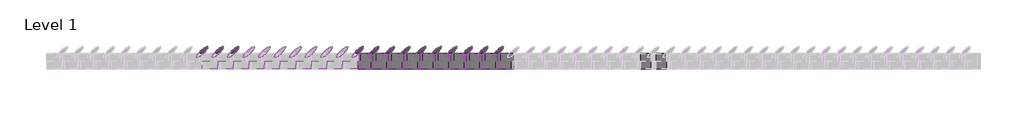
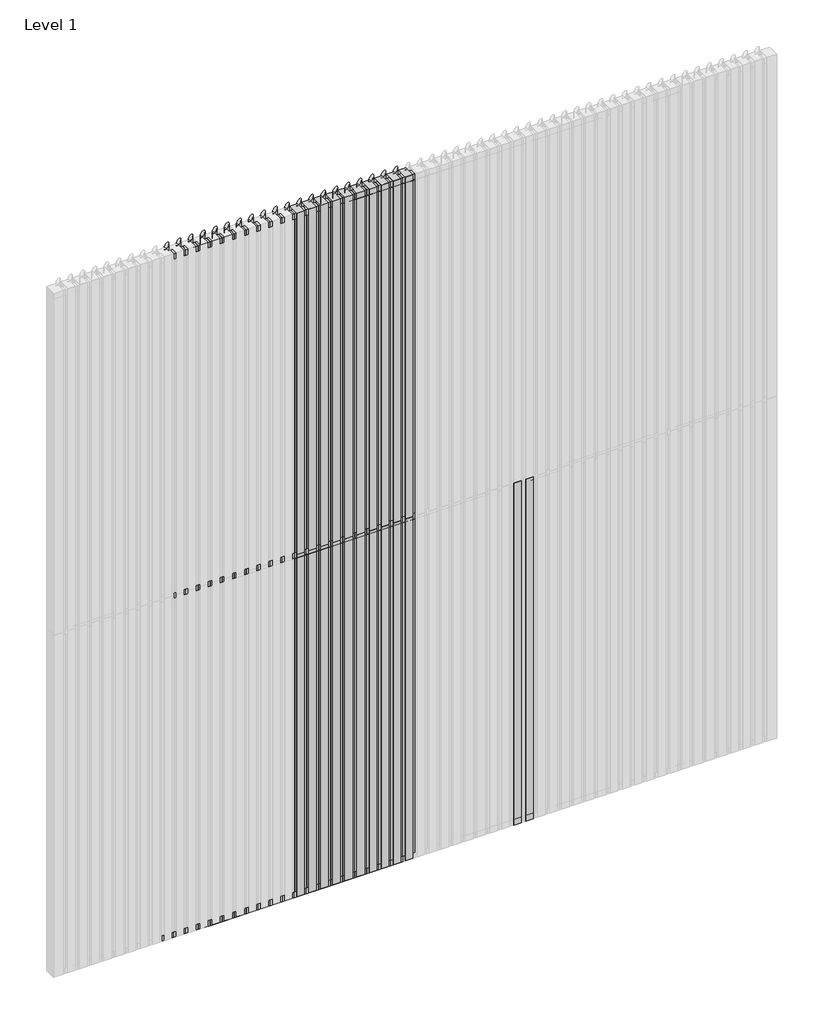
# One storey, part 2 of 4: 93 members, 42 plates.
"""IFC4 building model written with IfcOpenShell, lengths in millimetres."""

from ifc_helpers import new_model, si_unit, origin, place, context, project, spatial, transform, mapped, element, save
from components import rectangular_mullion_c274bac7, rectangular_mullion_cddbc660, rectangular_mullion_a3e25429, rectangular_mullion_ae434dd9, empty_system_panel_empty_80e3f5b0, empty_system_panel_empty_147de6ce

model = new_model("IFC4")

# Units and contexts
model_context = context("Model", 3, world=origin())
ifc_project = project(units=[si_unit("LENGTHUNIT", "METRE", prefix="MILLI")], contexts=[model_context])

# Site, building, storey
site = spatial("IfcSite", under=ifc_project)
building = spatial("IfcBuilding", under=site)
storey = spatial("IfcBuildingStorey", under=building, Name="Level 1", Elevation=0.0)

# Members
placement = place(None, origin())
rectangular_mullion_shape = rectangular_mullion_c274bac7(model_context)
element("IfcMember", 1, ObjectType="Rectangular Mullion : RSen_21_CWM_blade - 100 ellips - 45°_gen_duco projects", at=placement, inside=storey, context=model_context, shape_type="MappedRepresentation", body=[
    mapped(rectangular_mullion_shape, transform((2900.0, 3000.0, 0.0), x_axis=(-1.0, 0.0, 0.0), y_axis=(0.0, 1.0, 0.0), z_axis=(0.0, 0.0, -1.0))),
])
element("IfcMember", 2, ObjectType="Rectangular Mullion : RSen_21_CWM_blade - 100 ellips - 45°_gen_duco projects", at=placement, inside=storey, context=model_context, shape_type="MappedRepresentation", body=[
    mapped(rectangular_mullion_shape, transform((2800.0, 3000.0, 0.0), x_axis=(-1.0, 0.0, 0.0), y_axis=(0.0, 1.0, 0.0), z_axis=(0.0, 0.0, -1.0))),
])
element("IfcMember", 3, ObjectType="Rectangular Mullion : RSen_21_CWM_blade - 100 ellips - 45°_gen_duco projects", at=placement, inside=storey, context=model_context, shape_type="MappedRepresentation", body=[
    mapped(rectangular_mullion_shape, transform((2700.0, 3000.0, 0.0), x_axis=(-1.0, 0.0, 0.0), y_axis=(0.0, 1.0, 0.0), z_axis=(0.0, 0.0, -1.0))),
])
element("IfcMember", 4, ObjectType="Rectangular Mullion : RSen_21_CWM_blade - 100 ellips - 45°_gen_duco projects", at=placement, inside=storey, context=model_context, shape_type="MappedRepresentation", body=[
    mapped(rectangular_mullion_shape, transform((2600.0, 3000.0, 0.0), x_axis=(-1.0, 0.0, 0.0), y_axis=(0.0, 1.0, 0.0), z_axis=(0.0, 0.0, -1.0))),
])
element("IfcMember", 5, ObjectType="Rectangular Mullion : RSen_21_CWM_blade - 100 ellips - 45°_gen_duco projects", at=placement, inside=storey, context=model_context, shape_type="MappedRepresentation", body=[
    mapped(rectangular_mullion_shape, transform((2500.0, 3000.0, 0.0), x_axis=(-1.0, 0.0, 0.0), y_axis=(0.0, 1.0, 0.0), z_axis=(0.0, 0.0, -1.0))),
])
element("IfcMember", 6, ObjectType="Rectangular Mullion : RSen_21_CWM_blade - 100 ellips - 45°_gen_duco projects", at=placement, inside=storey, context=model_context, shape_type="MappedRepresentation", body=[
    mapped(rectangular_mullion_shape, transform((2400.0, 3000.0, 0.0), x_axis=(-1.0, 0.0, 0.0), y_axis=(0.0, 1.0, 0.0), z_axis=(0.0, 0.0, -1.0))),
])
element("IfcMember", 7, ObjectType="Rectangular Mullion : RSen_21_CWM_blade - 100 ellips - 45°_gen_duco projects", at=placement, inside=storey, context=model_context, shape_type="MappedRepresentation", body=[
    mapped(rectangular_mullion_shape, transform((2300.0, 3000.0, 0.0), x_axis=(-1.0, 0.0, 0.0), y_axis=(0.0, 1.0, 0.0), z_axis=(0.0, 0.0, -1.0))),
])
element("IfcMember", 8, ObjectType="Rectangular Mullion : RSen_21_CWM_blade - 100 ellips - 45°_gen_duco projects", at=placement, inside=storey, context=model_context, shape_type="MappedRepresentation", body=[
    mapped(rectangular_mullion_shape, transform((2200.0, 3000.0, 0.0), x_axis=(-1.0, 0.0, 0.0), y_axis=(0.0, 1.0, 0.0), z_axis=(0.0, 0.0, -1.0))),
])
element("IfcMember", 9, ObjectType="Rectangular Mullion : RSen_21_CWM_blade - 100 ellips - 45°_gen_duco projects", at=placement, inside=storey, context=model_context, shape_type="MappedRepresentation", body=[
    mapped(rectangular_mullion_shape, transform((2100.0, 3000.0, 0.0), x_axis=(-1.0, 0.0, 0.0), y_axis=(0.0, 1.0, 0.0), z_axis=(0.0, 0.0, -1.0))),
])
element("IfcMember", 10, ObjectType="Rectangular Mullion : RSen_21_CWM_blade - 100 ellips - 45°_gen_duco projects", at=placement, inside=storey, context=model_context, shape_type="MappedRepresentation", body=[
    mapped(rectangular_mullion_shape, transform((2000.0, 3000.0, 0.0), x_axis=(-1.0, 0.0, 0.0), y_axis=(0.0, 1.0, 0.0), z_axis=(0.0, 0.0, -1.0))),
])
element("IfcMember", 11, ObjectType="Rectangular Mullion : RSen_21_CWM_blade - 100 ellips - 45°_gen_duco projects", at=placement, inside=storey, context=model_context, shape_type="MappedRepresentation", body=[
    mapped(rectangular_mullion_shape, transform((1200.0, 3000.0, 0.0), x_axis=(-1.0, 0.0, 0.0), y_axis=(0.0, 1.0, 0.0), z_axis=(0.0, 0.0, -1.0))),
])
element("IfcMember", 12, ObjectType="Rectangular Mullion : RSen_21_CWM_blade - 100 ellips - 45°_gen_duco projects", at=placement, inside=storey, context=model_context, shape_type="MappedRepresentation", body=[
    mapped(rectangular_mullion_shape, transform((1100.0, 3000.0, 0.0), x_axis=(-1.0, 0.0, 0.0), y_axis=(0.0, 1.0, 0.0), z_axis=(0.0, 0.0, -1.0))),
])
element("IfcMember", 13, ObjectType="Rectangular Mullion : RSen_21_CWM_blade - 100 ellips - 45°_gen_duco projects", at=placement, inside=storey, context=model_context, shape_type="MappedRepresentation", body=[
    mapped(rectangular_mullion_shape, transform((1000.0, 3000.0, 0.0), x_axis=(-1.0, 0.0, 0.0), y_axis=(0.0, 1.0, 0.0), z_axis=(0.0, 0.0, -1.0))),
])
element("IfcMember", 14, ObjectType="Rectangular Mullion : RSen_21_CWM_blade - 100 ellips - 45°_gen_duco projects", at=placement, inside=storey, context=model_context, shape_type="MappedRepresentation", body=[
    mapped(rectangular_mullion_shape, transform((2900.0, 3000.0, 3000.0), x_axis=(-1.0, 0.0, 0.0), y_axis=(0.0, 1.0, 0.0), z_axis=(0.0, 0.0, -1.0))),
])
element("IfcMember", 15, ObjectType="Rectangular Mullion : RSen_21_CWM_blade - 100 ellips - 45°_gen_duco projects", at=placement, inside=storey, context=model_context, shape_type="MappedRepresentation", body=[
    mapped(rectangular_mullion_shape, transform((2800.0, 3000.0, 3000.0), x_axis=(-1.0, 0.0, 0.0), y_axis=(0.0, 1.0, 0.0), z_axis=(0.0, 0.0, -1.0))),
])
element("IfcMember", 16, ObjectType="Rectangular Mullion : RSen_21_CWM_blade - 100 ellips - 45°_gen_duco projects", at=placement, inside=storey, context=model_context, shape_type="MappedRepresentation", body=[
    mapped(rectangular_mullion_shape, transform((2700.0, 3000.0, 3000.0), x_axis=(-1.0, 0.0, 0.0), y_axis=(0.0, 1.0, 0.0), z_axis=(0.0, 0.0, -1.0))),
])
element("IfcMember", 17, ObjectType="Rectangular Mullion : RSen_21_CWM_blade - 100 ellips - 45°_gen_duco projects", at=placement, inside=storey, context=model_context, shape_type="MappedRepresentation", body=[
    mapped(rectangular_mullion_shape, transform((2600.0, 3000.0, 3000.0), x_axis=(-1.0, 0.0, 0.0), y_axis=(0.0, 1.0, 0.0), z_axis=(0.0, 0.0, -1.0))),
])
element("IfcMember", 18, ObjectType="Rectangular Mullion : RSen_21_CWM_blade - 100 ellips - 45°_gen_duco projects", at=placement, inside=storey, context=model_context, shape_type="MappedRepresentation", body=[
    mapped(rectangular_mullion_shape, transform((2500.0, 3000.0, 3000.0), x_axis=(-1.0, 0.0, 0.0), y_axis=(0.0, 1.0, 0.0), z_axis=(0.0, 0.0, -1.0))),
])
element("IfcMember", 19, ObjectType="Rectangular Mullion : RSen_21_CWM_blade - 100 ellips - 45°_gen_duco projects", at=placement, inside=storey, context=model_context, shape_type="MappedRepresentation", body=[
    mapped(rectangular_mullion_shape, transform((2400.0, 3000.0, 3000.0), x_axis=(-1.0, 0.0, 0.0), y_axis=(0.0, 1.0, 0.0), z_axis=(0.0, 0.0, -1.0))),
])
element("IfcMember", 20, ObjectType="Rectangular Mullion : RSen_21_CWM_blade - 100 ellips - 45°_gen_duco projects", at=placement, inside=storey, context=model_context, shape_type="MappedRepresentation", body=[
    mapped(rectangular_mullion_shape, transform((2300.0, 3000.0, 3000.0), x_axis=(-1.0, 0.0, 0.0), y_axis=(0.0, 1.0, 0.0), z_axis=(0.0, 0.0, -1.0))),
])
element("IfcMember", 21, ObjectType="Rectangular Mullion : RSen_21_CWM_blade - 100 ellips - 45°_gen_duco projects", at=placement, inside=storey, context=model_context, shape_type="MappedRepresentation", body=[
    mapped(rectangular_mullion_shape, transform((2200.0, 3000.0, 3000.0), x_axis=(-1.0, 0.0, 0.0), y_axis=(0.0, 1.0, 0.0), z_axis=(0.0, 0.0, -1.0))),
])
element("IfcMember", 22, ObjectType="Rectangular Mullion : RSen_21_CWM_blade - 100 ellips - 45°_gen_duco projects", at=placement, inside=storey, context=model_context, shape_type="MappedRepresentation", body=[
    mapped(rectangular_mullion_shape, transform((2100.0, 3000.0, 3000.0), x_axis=(-1.0, 0.0, 0.0), y_axis=(0.0, 1.0, 0.0), z_axis=(0.0, 0.0, -1.0))),
])
element("IfcMember", 23, ObjectType="Rectangular Mullion : RSen_21_CWM_blade - 100 ellips - 45°_gen_duco projects", at=placement, inside=storey, context=model_context, shape_type="MappedRepresentation", body=[
    mapped(rectangular_mullion_shape, transform((2000.0, 3000.0, 3000.0), x_axis=(-1.0, 0.0, 0.0), y_axis=(0.0, 1.0, 0.0), z_axis=(0.0, 0.0, -1.0))),
])
element("IfcMember", 24, ObjectType="Rectangular Mullion : RSen_21_CWM_blade - 100 ellips - 45°_gen_duco projects", at=placement, inside=storey, context=model_context, shape_type="MappedRepresentation", body=[
    mapped(rectangular_mullion_shape, transform((1900.0, 3000.0, 3000.0), x_axis=(-1.0, 0.0, 0.0), y_axis=(0.0, 1.0, 0.0), z_axis=(0.0, 0.0, -1.0))),
])
element("IfcMember", 25, ObjectType="Rectangular Mullion : RSen_21_CWM_blade - 100 ellips - 45°_gen_duco projects", at=placement, inside=storey, context=model_context, shape_type="MappedRepresentation", body=[
    mapped(rectangular_mullion_shape, transform((1800.0, 3000.0, 3000.0), x_axis=(-1.0, 0.0, 0.0), y_axis=(0.0, 1.0, 0.0), z_axis=(0.0, 0.0, -1.0))),
])
element("IfcMember", 26, ObjectType="Rectangular Mullion : RSen_21_CWM_blade - 100 ellips - 45°_gen_duco projects", at=placement, inside=storey, context=model_context, shape_type="MappedRepresentation", body=[
    mapped(rectangular_mullion_shape, transform((1700.0, 3000.0, 3000.0), x_axis=(-1.0, 0.0, 0.0), y_axis=(0.0, 1.0, 0.0), z_axis=(0.0, 0.0, -1.0))),
])
element("IfcMember", 27, ObjectType="Rectangular Mullion : RSen_21_CWM_blade - 100 ellips - 45°_gen_duco projects", at=placement, inside=storey, context=model_context, shape_type="MappedRepresentation", body=[
    mapped(rectangular_mullion_shape, transform((1600.0, 3000.0, 3000.0), x_axis=(-1.0, 0.0, 0.0), y_axis=(0.0, 1.0, 0.0), z_axis=(0.0, 0.0, -1.0))),
])
element("IfcMember", 28, ObjectType="Rectangular Mullion : RSen_21_CWM_blade - 100 ellips - 45°_gen_duco projects", at=placement, inside=storey, context=model_context, shape_type="MappedRepresentation", body=[
    mapped(rectangular_mullion_shape, transform((1500.0, 3000.0, 3000.0), x_axis=(-1.0, 0.0, 0.0), y_axis=(0.0, 1.0, 0.0), z_axis=(0.0, 0.0, -1.0))),
])
element("IfcMember", 29, ObjectType="Rectangular Mullion : RSen_21_CWM_blade - 100 ellips - 45°_gen_duco projects", at=placement, inside=storey, context=model_context, shape_type="MappedRepresentation", body=[
    mapped(rectangular_mullion_shape, transform((1400.0, 3000.0, 3000.0), x_axis=(-1.0, 0.0, 0.0), y_axis=(0.0, 1.0, 0.0), z_axis=(0.0, 0.0, -1.0))),
])
element("IfcMember", 30, ObjectType="Rectangular Mullion : RSen_21_CWM_blade - 100 ellips - 45°_gen_duco projects", at=placement, inside=storey, context=model_context, shape_type="MappedRepresentation", body=[
    mapped(rectangular_mullion_shape, transform((1300.0, 3000.0, 3000.0), x_axis=(-1.0, 0.0, 0.0), y_axis=(0.0, 1.0, 0.0), z_axis=(0.0, 0.0, -1.0))),
])
element("IfcMember", 31, ObjectType="Rectangular Mullion : RSen_21_CWM_blade - 100 ellips - 45°_gen_duco projects", at=placement, inside=storey, context=model_context, shape_type="MappedRepresentation", body=[
    mapped(rectangular_mullion_shape, transform((1200.0, 3000.0, 3000.0), x_axis=(-1.0, 0.0, 0.0), y_axis=(0.0, 1.0, 0.0), z_axis=(0.0, 0.0, -1.0))),
])
element("IfcMember", 32, ObjectType="Rectangular Mullion : RSen_21_CWM_blade - 100 ellips - 45°_gen_duco projects", at=placement, inside=storey, context=model_context, shape_type="MappedRepresentation", body=[
    mapped(rectangular_mullion_shape, transform((1100.0, 3000.0, 3000.0), x_axis=(-1.0, 0.0, 0.0), y_axis=(0.0, 1.0, 0.0), z_axis=(0.0, 0.0, -1.0))),
])
element("IfcMember", 33, ObjectType="Rectangular Mullion : RSen_21_CWM_blade - 100 ellips - 45°_gen_duco projects", at=placement, inside=storey, context=model_context, shape_type="MappedRepresentation", body=[
    mapped(rectangular_mullion_shape, transform((1000.0, 3000.0, 3000.0), x_axis=(-1.0, 0.0, 0.0), y_axis=(0.0, 1.0, 0.0), z_axis=(0.0, 0.0, -1.0))),
])
rectangular_mullion_2_shape = rectangular_mullion_cddbc660(model_context)
element("IfcMember", 34, ObjectType="Rectangular Mullion : RSen_21_CWM_support profile 50x50 - left_gen_duco projects", at=placement, inside=storey, context=model_context, shape_type="MappedRepresentation", body=[
    mapped(rectangular_mullion_2_shape, transform((2900.0, 3000.0, 6000.0), x_axis=(0.0, 0.0, 1.0), y_axis=(0.0, 1.0, 0.0), z_axis=(-1.0, 0.0, 0.0))),
])
element("IfcMember", 35, ObjectType="Rectangular Mullion : RSen_21_CWM_support profile 50x50 - left_gen_duco projects", at=placement, inside=storey, context=model_context, shape_type="MappedRepresentation", body=[
    mapped(rectangular_mullion_2_shape, transform((2800.0, 3000.0, 6000.0), x_axis=(0.0, 0.0, 1.0), y_axis=(0.0, 1.0, 0.0), z_axis=(-1.0, 0.0, 0.0))),
])
element("IfcMember", 36, ObjectType="Rectangular Mullion : RSen_21_CWM_support profile 50x50 - left_gen_duco projects", at=placement, inside=storey, context=model_context, shape_type="MappedRepresentation", body=[
    mapped(rectangular_mullion_2_shape, transform((2700.0, 3000.0, 6000.0), x_axis=(0.0, 0.0, 1.0), y_axis=(0.0, 1.0, 0.0), z_axis=(-1.0, 0.0, 0.0))),
])
element("IfcMember", 37, ObjectType="Rectangular Mullion : RSen_21_CWM_support profile 50x50 - left_gen_duco projects", at=placement, inside=storey, context=model_context, shape_type="MappedRepresentation", body=[
    mapped(rectangular_mullion_2_shape, transform((2600.0, 3000.0, 6000.0), x_axis=(0.0, 0.0, 1.0), y_axis=(0.0, 1.0, 0.0), z_axis=(-1.0, 0.0, 0.0))),
])
element("IfcMember", 38, ObjectType="Rectangular Mullion : RSen_21_CWM_support profile 50x50 - left_gen_duco projects", at=placement, inside=storey, context=model_context, shape_type="MappedRepresentation", body=[
    mapped(rectangular_mullion_2_shape, transform((2500.0, 3000.0, 6000.0), x_axis=(0.0, 0.0, 1.0), y_axis=(0.0, 1.0, 0.0), z_axis=(-1.0, 0.0, 0.0))),
])
element("IfcMember", 39, ObjectType="Rectangular Mullion : RSen_21_CWM_support profile 50x50 - left_gen_duco projects", at=placement, inside=storey, context=model_context, shape_type="MappedRepresentation", body=[
    mapped(rectangular_mullion_2_shape, transform((2400.0, 3000.0, 6000.0), x_axis=(0.0, 0.0, 1.0), y_axis=(0.0, 1.0, 0.0), z_axis=(-1.0, 0.0, 0.0))),
])
element("IfcMember", 40, ObjectType="Rectangular Mullion : RSen_21_CWM_support profile 50x50 - left_gen_duco projects", at=placement, inside=storey, context=model_context, shape_type="MappedRepresentation", body=[
    mapped(rectangular_mullion_2_shape, transform((2300.0, 3000.0, 6000.0), x_axis=(0.0, 0.0, 1.0), y_axis=(0.0, 1.0, 0.0), z_axis=(-1.0, 0.0, 0.0))),
])
element("IfcMember", 41, ObjectType="Rectangular Mullion : RSen_21_CWM_support profile 50x50 - left_gen_duco projects", at=placement, inside=storey, context=model_context, shape_type="MappedRepresentation", body=[
    mapped(rectangular_mullion_2_shape, transform((2200.0, 3000.0, 6000.0), x_axis=(0.0, 0.0, 1.0), y_axis=(0.0, 1.0, 0.0), z_axis=(-1.0, 0.0, 0.0))),
])
element("IfcMember", 42, ObjectType="Rectangular Mullion : RSen_21_CWM_support profile 50x50 - left_gen_duco projects", at=placement, inside=storey, context=model_context, shape_type="MappedRepresentation", body=[
    mapped(rectangular_mullion_2_shape, transform((2100.0, 3000.0, 6000.0), x_axis=(0.0, 0.0, 1.0), y_axis=(0.0, 1.0, 0.0), z_axis=(-1.0, 0.0, 0.0))),
])
element("IfcMember", 43, ObjectType="Rectangular Mullion : RSen_21_CWM_support profile 50x50 - left_gen_duco projects", at=placement, inside=storey, context=model_context, shape_type="MappedRepresentation", body=[
    mapped(rectangular_mullion_2_shape, transform((2000.0, 3000.0, 6000.0), x_axis=(0.0, 0.0, 1.0), y_axis=(0.0, 1.0, 0.0), z_axis=(-1.0, 0.0, 0.0))),
])
element("IfcMember", 44, ObjectType="Rectangular Mullion : RSen_21_CWM_support profile 50x50 - left_gen_duco projects", at=placement, inside=storey, context=model_context, shape_type="MappedRepresentation", body=[
    mapped(rectangular_mullion_2_shape, transform((1900.0, 3000.0, 6000.0), x_axis=(0.0, 0.0, 1.0), y_axis=(0.0, 1.0, 0.0), z_axis=(-1.0, 0.0, 0.0))),
])
element("IfcMember", 45, ObjectType="Rectangular Mullion : RSen_21_CWM_support profile 50x50 - left_gen_duco projects", at=placement, inside=storey, context=model_context, shape_type="MappedRepresentation", body=[
    mapped(rectangular_mullion_2_shape, transform((1800.0, 3000.0, 6000.0), x_axis=(0.0, 0.0, 1.0), y_axis=(0.0, 1.0, 0.0), z_axis=(-1.0, 0.0, 0.0))),
])
element("IfcMember", 46, ObjectType="Rectangular Mullion : RSen_21_CWM_support profile 50x50 - left_gen_duco projects", at=placement, inside=storey, context=model_context, shape_type="MappedRepresentation", body=[
    mapped(rectangular_mullion_2_shape, transform((1700.0, 3000.0, 6000.0), x_axis=(0.0, 0.0, 1.0), y_axis=(0.0, 1.0, 0.0), z_axis=(-1.0, 0.0, 0.0))),
])
element("IfcMember", 47, ObjectType="Rectangular Mullion : RSen_21_CWM_support profile 50x50 - left_gen_duco projects", at=placement, inside=storey, context=model_context, shape_type="MappedRepresentation", body=[
    mapped(rectangular_mullion_2_shape, transform((1600.0, 3000.0, 6000.0), x_axis=(0.0, 0.0, 1.0), y_axis=(0.0, 1.0, 0.0), z_axis=(-1.0, 0.0, 0.0))),
])
element("IfcMember", 48, ObjectType="Rectangular Mullion : RSen_21_CWM_support profile 50x50 - left_gen_duco projects", at=placement, inside=storey, context=model_context, shape_type="MappedRepresentation", body=[
    mapped(rectangular_mullion_2_shape, transform((1500.0, 3000.0, 6000.0), x_axis=(0.0, 0.0, 1.0), y_axis=(0.0, 1.0, 0.0), z_axis=(-1.0, 0.0, 0.0))),
])
element("IfcMember", 49, ObjectType="Rectangular Mullion : RSen_21_CWM_support profile 50x50 - left_gen_duco projects", at=placement, inside=storey, context=model_context, shape_type="MappedRepresentation", body=[
    mapped(rectangular_mullion_2_shape, transform((1400.0, 3000.0, 6000.0), x_axis=(0.0, 0.0, 1.0), y_axis=(0.0, 1.0, 0.0), z_axis=(-1.0, 0.0, 0.0))),
])
element("IfcMember", 50, ObjectType="Rectangular Mullion : RSen_21_CWM_support profile 50x50 - left_gen_duco projects", at=placement, inside=storey, context=model_context, shape_type="MappedRepresentation", body=[
    mapped(rectangular_mullion_2_shape, transform((1300.0, 3000.0, 6000.0), x_axis=(0.0, 0.0, 1.0), y_axis=(0.0, 1.0, 0.0), z_axis=(-1.0, 0.0, 0.0))),
])
element("IfcMember", 51, ObjectType="Rectangular Mullion : RSen_21_CWM_support profile 50x50 - left_gen_duco projects", at=placement, inside=storey, context=model_context, shape_type="MappedRepresentation", body=[
    mapped(rectangular_mullion_2_shape, transform((1200.0, 3000.0, 6000.0), x_axis=(0.0, 0.0, 1.0), y_axis=(0.0, 1.0, 0.0), z_axis=(-1.0, 0.0, 0.0))),
])
element("IfcMember", 52, ObjectType="Rectangular Mullion : RSen_21_CWM_support profile 50x50 - left_gen_duco projects", at=placement, inside=storey, context=model_context, shape_type="MappedRepresentation", body=[
    mapped(rectangular_mullion_2_shape, transform((1100.0, 3000.0, 6000.0), x_axis=(0.0, 0.0, 1.0), y_axis=(0.0, 1.0, 0.0), z_axis=(-1.0, 0.0, 0.0))),
])
element("IfcMember", 53, ObjectType="Rectangular Mullion : RSen_21_CWM_support profile 50x50 - left_gen_duco projects", at=placement, inside=storey, context=model_context, shape_type="MappedRepresentation", body=[
    mapped(rectangular_mullion_2_shape, transform((1000.0, 3000.0, 6000.0), x_axis=(0.0, 0.0, 1.0), y_axis=(0.0, 1.0, 0.0), z_axis=(-1.0, 0.0, 0.0))),
])
rectangular_mullion_3_shape = rectangular_mullion_a3e25429(model_context)
element("IfcMember", 54, ObjectType="Rectangular Mullion : RSen_21_CWM_support profile 50x50 - right_gen_duco projects", at=placement, inside=storey, context=model_context, shape_type="MappedRepresentation", body=[
    mapped(rectangular_mullion_3_shape, transform((2900.0, 3000.0, 0.0), x_axis=(0.0, 0.0, -1.0), y_axis=(0.0, 1.0, 0.0), z_axis=(1.0, 0.0, 0.0))),
])
element("IfcMember", 55, ObjectType="Rectangular Mullion : RSen_21_CWM_support profile 50x50 - right_gen_duco projects", at=placement, inside=storey, context=model_context, shape_type="MappedRepresentation", body=[
    mapped(rectangular_mullion_3_shape, transform((2800.0, 3000.0, 0.0), x_axis=(0.0, 0.0, -1.0), y_axis=(0.0, 1.0, 0.0), z_axis=(1.0, 0.0, 0.0))),
])
element("IfcMember", 56, ObjectType="Rectangular Mullion : RSen_21_CWM_support profile 50x50 - right_gen_duco projects", at=placement, inside=storey, context=model_context, shape_type="MappedRepresentation", body=[
    mapped(rectangular_mullion_3_shape, transform((2700.0, 3000.0, 0.0), x_axis=(0.0, 0.0, -1.0), y_axis=(0.0, 1.0, 0.0), z_axis=(1.0, 0.0, 0.0))),
])
element("IfcMember", 57, ObjectType="Rectangular Mullion : RSen_21_CWM_support profile 50x50 - right_gen_duco projects", at=placement, inside=storey, context=model_context, shape_type="MappedRepresentation", body=[
    mapped(rectangular_mullion_3_shape, transform((2600.0, 3000.0, 0.0), x_axis=(0.0, 0.0, -1.0), y_axis=(0.0, 1.0, 0.0), z_axis=(1.0, 0.0, 0.0))),
])
element("IfcMember", 58, ObjectType="Rectangular Mullion : RSen_21_CWM_support profile 50x50 - right_gen_duco projects", at=placement, inside=storey, context=model_context, shape_type="MappedRepresentation", body=[
    mapped(rectangular_mullion_3_shape, transform((2500.0, 3000.0, 0.0), x_axis=(0.0, 0.0, -1.0), y_axis=(0.0, 1.0, 0.0), z_axis=(1.0, 0.0, 0.0))),
])
element("IfcMember", 59, ObjectType="Rectangular Mullion : RSen_21_CWM_support profile 50x50 - right_gen_duco projects", at=placement, inside=storey, context=model_context, shape_type="MappedRepresentation", body=[
    mapped(rectangular_mullion_3_shape, transform((2400.0, 3000.0, 0.0), x_axis=(0.0, 0.0, -1.0), y_axis=(0.0, 1.0, 0.0), z_axis=(1.0, 0.0, 0.0))),
])
element("IfcMember", 60, ObjectType="Rectangular Mullion : RSen_21_CWM_support profile 50x50 - right_gen_duco projects", at=placement, inside=storey, context=model_context, shape_type="MappedRepresentation", body=[
    mapped(rectangular_mullion_3_shape, transform((2300.0, 3000.0, 0.0), x_axis=(0.0, 0.0, -1.0), y_axis=(0.0, 1.0, 0.0), z_axis=(1.0, 0.0, 0.0))),
])
element("IfcMember", 61, ObjectType="Rectangular Mullion : RSen_21_CWM_support profile 50x50 - right_gen_duco projects", at=placement, inside=storey, context=model_context, shape_type="MappedRepresentation", body=[
    mapped(rectangular_mullion_3_shape, transform((2200.0, 3000.0, 0.0), x_axis=(0.0, 0.0, -1.0), y_axis=(0.0, 1.0, 0.0), z_axis=(1.0, 0.0, 0.0))),
])
element("IfcMember", 62, ObjectType="Rectangular Mullion : RSen_21_CWM_support profile 50x50 - right_gen_duco projects", at=placement, inside=storey, context=model_context, shape_type="MappedRepresentation", body=[
    mapped(rectangular_mullion_3_shape, transform((2100.0, 3000.0, 0.0), x_axis=(0.0, 0.0, -1.0), y_axis=(0.0, 1.0, 0.0), z_axis=(1.0, 0.0, 0.0))),
])
element("IfcMember", 63, ObjectType="Rectangular Mullion : RSen_21_CWM_support profile 50x50 - right_gen_duco projects", at=placement, inside=storey, context=model_context, shape_type="MappedRepresentation", body=[
    mapped(rectangular_mullion_3_shape, transform((2000.0, 3000.0, 0.0), x_axis=(0.0, 0.0, -1.0), y_axis=(0.0, 1.0, 0.0), z_axis=(1.0, 0.0, 0.0))),
])
element("IfcMember", 64, ObjectType="Rectangular Mullion : RSen_21_CWM_support profile 50x50 - right_gen_duco projects", at=placement, inside=storey, context=model_context, shape_type="MappedRepresentation", body=[
    mapped(rectangular_mullion_3_shape, transform((1900.0, 3000.0, 0.0), x_axis=(0.0, 0.0, -1.0), y_axis=(0.0, 1.0, 0.0), z_axis=(1.0, 0.0, 0.0))),
])
element("IfcMember", 65, ObjectType="Rectangular Mullion : RSen_21_CWM_support profile 50x50 - right_gen_duco projects", at=placement, inside=storey, context=model_context, shape_type="MappedRepresentation", body=[
    mapped(rectangular_mullion_3_shape, transform((1800.0, 3000.0, 0.0), x_axis=(0.0, 0.0, -1.0), y_axis=(0.0, 1.0, 0.0), z_axis=(1.0, 0.0, 0.0))),
])
element("IfcMember", 66, ObjectType="Rectangular Mullion : RSen_21_CWM_support profile 50x50 - right_gen_duco projects", at=placement, inside=storey, context=model_context, shape_type="MappedRepresentation", body=[
    mapped(rectangular_mullion_3_shape, transform((1700.0, 3000.0, 0.0), x_axis=(0.0, 0.0, -1.0), y_axis=(0.0, 1.0, 0.0), z_axis=(1.0, 0.0, 0.0))),
])
element("IfcMember", 67, ObjectType="Rectangular Mullion : RSen_21_CWM_support profile 50x50 - right_gen_duco projects", at=placement, inside=storey, context=model_context, shape_type="MappedRepresentation", body=[
    mapped(rectangular_mullion_3_shape, transform((1600.0, 3000.0, 0.0), x_axis=(0.0, 0.0, -1.0), y_axis=(0.0, 1.0, 0.0), z_axis=(1.0, 0.0, 0.0))),
])
element("IfcMember", 68, ObjectType="Rectangular Mullion : RSen_21_CWM_support profile 50x50 - right_gen_duco projects", at=placement, inside=storey, context=model_context, shape_type="MappedRepresentation", body=[
    mapped(rectangular_mullion_3_shape, transform((1500.0, 3000.0, 0.0), x_axis=(0.0, 0.0, -1.0), y_axis=(0.0, 1.0, 0.0), z_axis=(1.0, 0.0, 0.0))),
])
element("IfcMember", 69, ObjectType="Rectangular Mullion : RSen_21_CWM_support profile 50x50 - right_gen_duco projects", at=placement, inside=storey, context=model_context, shape_type="MappedRepresentation", body=[
    mapped(rectangular_mullion_3_shape, transform((1400.0, 3000.0, 0.0), x_axis=(0.0, 0.0, -1.0), y_axis=(0.0, 1.0, 0.0), z_axis=(1.0, 0.0, 0.0))),
])
element("IfcMember", 70, ObjectType="Rectangular Mullion : RSen_21_CWM_support profile 50x50 - right_gen_duco projects", at=placement, inside=storey, context=model_context, shape_type="MappedRepresentation", body=[
    mapped(rectangular_mullion_3_shape, transform((1300.0, 3000.0, 0.0), x_axis=(0.0, 0.0, -1.0), y_axis=(0.0, 1.0, 0.0), z_axis=(1.0, 0.0, 0.0))),
])
element("IfcMember", 71, ObjectType="Rectangular Mullion : RSen_21_CWM_support profile 50x50 - right_gen_duco projects", at=placement, inside=storey, context=model_context, shape_type="MappedRepresentation", body=[
    mapped(rectangular_mullion_3_shape, transform((1200.0, 3000.0, 0.0), x_axis=(0.0, 0.0, -1.0), y_axis=(0.0, 1.0, 0.0), z_axis=(1.0, 0.0, 0.0))),
])
element("IfcMember", 72, ObjectType="Rectangular Mullion : RSen_21_CWM_support profile 50x50 - right_gen_duco projects", at=placement, inside=storey, context=model_context, shape_type="MappedRepresentation", body=[
    mapped(rectangular_mullion_3_shape, transform((1100.0, 3000.0, 0.0), x_axis=(0.0, 0.0, -1.0), y_axis=(0.0, 1.0, 0.0), z_axis=(1.0, 0.0, 0.0))),
])
element("IfcMember", 73, ObjectType="Rectangular Mullion : RSen_21_CWM_support profile 50x50 - right_gen_duco projects", at=placement, inside=storey, context=model_context, shape_type="MappedRepresentation", body=[
    mapped(rectangular_mullion_3_shape, transform((1000.0, 3000.0, 0.0), x_axis=(0.0, 0.0, -1.0), y_axis=(0.0, 1.0, 0.0), z_axis=(1.0, 0.0, 0.0))),
])
rectangular_mullion_4_shape = rectangular_mullion_ae434dd9(model_context)
element("IfcMember", 74, ObjectType="Rectangular Mullion : RSen_21_CWM_support profile 50x50_gen_duco projects", at=placement, inside=storey, context=model_context, shape_type="MappedRepresentation", body=[
    mapped(rectangular_mullion_4_shape, transform((2900.0, 3000.0, 3000.0), x_axis=(0.0, 0.0, 1.0), y_axis=(0.0, 1.0, 0.0), z_axis=(-1.0, 0.0, 0.0))),
])
element("IfcMember", 75, ObjectType="Rectangular Mullion : RSen_21_CWM_support profile 50x50_gen_duco projects", at=placement, inside=storey, context=model_context, shape_type="MappedRepresentation", body=[
    mapped(rectangular_mullion_4_shape, transform((2800.0, 3000.0, 3000.0), x_axis=(0.0, 0.0, 1.0), y_axis=(0.0, 1.0, 0.0), z_axis=(-1.0, 0.0, 0.0))),
])
element("IfcMember", 76, ObjectType="Rectangular Mullion : RSen_21_CWM_support profile 50x50_gen_duco projects", at=placement, inside=storey, context=model_context, shape_type="MappedRepresentation", body=[
    mapped(rectangular_mullion_4_shape, transform((2700.0, 3000.0, 3000.0), x_axis=(0.0, 0.0, 1.0), y_axis=(0.0, 1.0, 0.0), z_axis=(-1.0, 0.0, 0.0))),
])
element("IfcMember", 77, ObjectType="Rectangular Mullion : RSen_21_CWM_support profile 50x50_gen_duco projects", at=placement, inside=storey, context=model_context, shape_type="MappedRepresentation", body=[
    mapped(rectangular_mullion_4_shape, transform((2600.0, 3000.0, 3000.0), x_axis=(0.0, 0.0, 1.0), y_axis=(0.0, 1.0, 0.0), z_axis=(-1.0, 0.0, 0.0))),
])
element("IfcMember", 78, ObjectType="Rectangular Mullion : RSen_21_CWM_support profile 50x50_gen_duco projects", at=placement, inside=storey, context=model_context, shape_type="MappedRepresentation", body=[
    mapped(rectangular_mullion_4_shape, transform((2500.0, 3000.0, 3000.0), x_axis=(0.0, 0.0, 1.0), y_axis=(0.0, 1.0, 0.0), z_axis=(-1.0, 0.0, 0.0))),
])
element("IfcMember", 79, ObjectType="Rectangular Mullion : RSen_21_CWM_support profile 50x50_gen_duco projects", at=placement, inside=storey, context=model_context, shape_type="MappedRepresentation", body=[
    mapped(rectangular_mullion_4_shape, transform((2400.0, 3000.0, 3000.0), x_axis=(0.0, 0.0, 1.0), y_axis=(0.0, 1.0, 0.0), z_axis=(-1.0, 0.0, 0.0))),
])
element("IfcMember", 80, ObjectType="Rectangular Mullion : RSen_21_CWM_support profile 50x50_gen_duco projects", at=placement, inside=storey, context=model_context, shape_type="MappedRepresentation", body=[
    mapped(rectangular_mullion_4_shape, transform((2300.0, 3000.0, 3000.0), x_axis=(0.0, 0.0, 1.0), y_axis=(0.0, 1.0, 0.0), z_axis=(-1.0, 0.0, 0.0))),
])
element("IfcMember", 81, ObjectType="Rectangular Mullion : RSen_21_CWM_support profile 50x50_gen_duco projects", at=placement, inside=storey, context=model_context, shape_type="MappedRepresentation", body=[
    mapped(rectangular_mullion_4_shape, transform((2200.0, 3000.0, 3000.0), x_axis=(0.0, 0.0, 1.0), y_axis=(0.0, 1.0, 0.0), z_axis=(-1.0, 0.0, 0.0))),
])
element("IfcMember", 82, ObjectType="Rectangular Mullion : RSen_21_CWM_support profile 50x50_gen_duco projects", at=placement, inside=storey, context=model_context, shape_type="MappedRepresentation", body=[
    mapped(rectangular_mullion_4_shape, transform((2100.0, 3000.0, 3000.0), x_axis=(0.0, 0.0, 1.0), y_axis=(0.0, 1.0, 0.0), z_axis=(-1.0, 0.0, 0.0))),
])
element("IfcMember", 83, ObjectType="Rectangular Mullion : RSen_21_CWM_support profile 50x50_gen_duco projects", at=placement, inside=storey, context=model_context, shape_type="MappedRepresentation", body=[
    mapped(rectangular_mullion_4_shape, transform((2000.0, 3000.0, 3000.0), x_axis=(0.0, 0.0, 1.0), y_axis=(0.0, 1.0, 0.0), z_axis=(-1.0, 0.0, 0.0))),
])
element("IfcMember", 84, ObjectType="Rectangular Mullion : RSen_21_CWM_support profile 50x50_gen_duco projects", at=placement, inside=storey, context=model_context, shape_type="MappedRepresentation", body=[
    mapped(rectangular_mullion_4_shape, transform((1900.0, 3000.0, 3000.0), x_axis=(0.0, 0.0, 1.0), y_axis=(0.0, 1.0, 0.0), z_axis=(-1.0, 0.0, 0.0))),
])
element("IfcMember", 85, ObjectType="Rectangular Mullion : RSen_21_CWM_support profile 50x50_gen_duco projects", at=placement, inside=storey, context=model_context, shape_type="MappedRepresentation", body=[
    mapped(rectangular_mullion_4_shape, transform((1800.0, 3000.0, 3000.0), x_axis=(0.0, 0.0, 1.0), y_axis=(0.0, 1.0, 0.0), z_axis=(-1.0, 0.0, 0.0))),
])
element("IfcMember", 86, ObjectType="Rectangular Mullion : RSen_21_CWM_support profile 50x50_gen_duco projects", at=placement, inside=storey, context=model_context, shape_type="MappedRepresentation", body=[
    mapped(rectangular_mullion_4_shape, transform((1700.0, 3000.0, 3000.0), x_axis=(0.0, 0.0, 1.0), y_axis=(0.0, 1.0, 0.0), z_axis=(-1.0, 0.0, 0.0))),
])
element("IfcMember", 87, ObjectType="Rectangular Mullion : RSen_21_CWM_support profile 50x50_gen_duco projects", at=placement, inside=storey, context=model_context, shape_type="MappedRepresentation", body=[
    mapped(rectangular_mullion_4_shape, transform((1600.0, 3000.0, 3000.0), x_axis=(0.0, 0.0, 1.0), y_axis=(0.0, 1.0, 0.0), z_axis=(-1.0, 0.0, 0.0))),
])
element("IfcMember", 88, ObjectType="Rectangular Mullion : RSen_21_CWM_support profile 50x50_gen_duco projects", at=placement, inside=storey, context=model_context, shape_type="MappedRepresentation", body=[
    mapped(rectangular_mullion_4_shape, transform((1500.0, 3000.0, 3000.0), x_axis=(0.0, 0.0, 1.0), y_axis=(0.0, 1.0, 0.0), z_axis=(-1.0, 0.0, 0.0))),
])
element("IfcMember", 89, ObjectType="Rectangular Mullion : RSen_21_CWM_support profile 50x50_gen_duco projects", at=placement, inside=storey, context=model_context, shape_type="MappedRepresentation", body=[
    mapped(rectangular_mullion_4_shape, transform((1400.0, 3000.0, 3000.0), x_axis=(0.0, 0.0, 1.0), y_axis=(0.0, 1.0, 0.0), z_axis=(-1.0, 0.0, 0.0))),
])
element("IfcMember", 90, ObjectType="Rectangular Mullion : RSen_21_CWM_support profile 50x50_gen_duco projects", at=placement, inside=storey, context=model_context, shape_type="MappedRepresentation", body=[
    mapped(rectangular_mullion_4_shape, transform((1300.0, 3000.0, 3000.0), x_axis=(0.0, 0.0, 1.0), y_axis=(0.0, 1.0, 0.0), z_axis=(-1.0, 0.0, 0.0))),
])
element("IfcMember", 91, ObjectType="Rectangular Mullion : RSen_21_CWM_support profile 50x50_gen_duco projects", at=placement, inside=storey, context=model_context, shape_type="MappedRepresentation", body=[
    mapped(rectangular_mullion_4_shape, transform((1200.0, 3000.0, 3000.0), x_axis=(0.0, 0.0, 1.0), y_axis=(0.0, 1.0, 0.0), z_axis=(-1.0, 0.0, 0.0))),
])
element("IfcMember", 92, ObjectType="Rectangular Mullion : RSen_21_CWM_support profile 50x50_gen_duco projects", at=placement, inside=storey, context=model_context, shape_type="MappedRepresentation", body=[
    mapped(rectangular_mullion_4_shape, transform((1100.0, 3000.0, 3000.0), x_axis=(0.0, 0.0, 1.0), y_axis=(0.0, 1.0, 0.0), z_axis=(-1.0, 0.0, 0.0))),
])
element("IfcMember", 93, ObjectType="Rectangular Mullion : RSen_21_CWM_support profile 50x50_gen_duco projects", at=placement, inside=storey, context=model_context, shape_type="MappedRepresentation", body=[
    mapped(rectangular_mullion_4_shape, transform((1000.0, 3000.0, 3000.0), x_axis=(0.0, 0.0, 1.0), y_axis=(0.0, 1.0, 0.0), z_axis=(-1.0, 0.0, 0.0))),
])

# Plates
empty_system_panel_empty_shape = empty_system_panel_empty_80e3f5b0(model_context)
element("IfcPlate", 94, ObjectType="Empty System Panel : Empty", at=placement, inside=storey, context=model_context, shape_type="MappedRepresentation", body=[
    mapped(empty_system_panel_empty_shape, transform((3950.0, 3000.0, 0.0), x_axis=(-1.0, 0.0, 0.0), y_axis=(0.0, -1.0, 0.0), z_axis=(0.0, 0.0, 1.0))),
])
element("IfcPlate", 95, ObjectType="Empty System Panel : Empty", at=placement, inside=storey, context=model_context, shape_type="MappedRepresentation", body=[
    mapped(empty_system_panel_empty_shape, transform((3850.0, 3000.0, 0.0), x_axis=(-1.0, 0.0, 0.0), y_axis=(0.0, -1.0, 0.0), z_axis=(0.0, 0.0, 1.0))),
])
element("IfcPlate", 96, ObjectType="Empty System Panel : Empty", at=placement, inside=storey, context=model_context, shape_type="MappedRepresentation", body=[
    mapped(empty_system_panel_empty_shape, transform((2950.0, 3000.0, 0.0), x_axis=(-1.0, 0.0, 0.0), y_axis=(0.0, -1.0, 0.0), z_axis=(0.0, 0.0, 1.0))),
])
element("IfcPlate", 97, ObjectType="Empty System Panel : Empty", at=placement, inside=storey, context=model_context, shape_type="MappedRepresentation", body=[
    mapped(empty_system_panel_empty_shape, transform((2850.0, 3000.0, 0.0), x_axis=(-1.0, 0.0, 0.0), y_axis=(0.0, -1.0, 0.0), z_axis=(0.0, 0.0, 1.0))),
])
element("IfcPlate", 98, ObjectType="Empty System Panel : Empty", at=placement, inside=storey, context=model_context, shape_type="MappedRepresentation", body=[
    mapped(empty_system_panel_empty_shape, transform((2750.0, 3000.0, 0.0), x_axis=(-1.0, 0.0, 0.0), y_axis=(0.0, -1.0, 0.0), z_axis=(0.0, 0.0, 1.0))),
])
element("IfcPlate", 99, ObjectType="Empty System Panel : Empty", at=placement, inside=storey, context=model_context, shape_type="MappedRepresentation", body=[
    mapped(empty_system_panel_empty_shape, transform((2650.0, 3000.0, 0.0), x_axis=(-1.0, 0.0, 0.0), y_axis=(0.0, -1.0, 0.0), z_axis=(0.0, 0.0, 1.0))),
])
element("IfcPlate", 100, ObjectType="Empty System Panel : Empty", at=placement, inside=storey, context=model_context, shape_type="MappedRepresentation", body=[
    mapped(empty_system_panel_empty_shape, transform((2550.0, 3000.0, 0.0), x_axis=(-1.0, 0.0, 0.0), y_axis=(0.0, -1.0, 0.0), z_axis=(0.0, 0.0, 1.0))),
])
element("IfcPlate", 101, ObjectType="Empty System Panel : Empty", at=placement, inside=storey, context=model_context, shape_type="MappedRepresentation", body=[
    mapped(empty_system_panel_empty_shape, transform((2450.0, 3000.0, 0.0), x_axis=(-1.0, 0.0, 0.0), y_axis=(0.0, -1.0, 0.0), z_axis=(0.0, 0.0, 1.0))),
])
element("IfcPlate", 102, ObjectType="Empty System Panel : Empty", at=placement, inside=storey, context=model_context, shape_type="MappedRepresentation", body=[
    mapped(empty_system_panel_empty_shape, transform((2350.0, 3000.0, 0.0), x_axis=(-1.0, 0.0, 0.0), y_axis=(0.0, -1.0, 0.0), z_axis=(0.0, 0.0, 1.0))),
])
element("IfcPlate", 103, ObjectType="Empty System Panel : Empty", at=placement, inside=storey, context=model_context, shape_type="MappedRepresentation", body=[
    mapped(empty_system_panel_empty_shape, transform((2250.0, 3000.0, 0.0), x_axis=(-1.0, 0.0, 0.0), y_axis=(0.0, -1.0, 0.0), z_axis=(0.0, 0.0, 1.0))),
])
element("IfcPlate", 104, ObjectType="Empty System Panel : Empty", at=placement, inside=storey, context=model_context, shape_type="MappedRepresentation", body=[
    mapped(empty_system_panel_empty_shape, transform((2150.0, 3000.0, 0.0), x_axis=(-1.0, 0.0, 0.0), y_axis=(0.0, -1.0, 0.0), z_axis=(0.0, 0.0, 1.0))),
])
element("IfcPlate", 105, ObjectType="Empty System Panel : Empty", at=placement, inside=storey, context=model_context, shape_type="MappedRepresentation", body=[
    mapped(empty_system_panel_empty_shape, transform((2050.0, 3000.0, 0.0), x_axis=(-1.0, 0.0, 0.0), y_axis=(0.0, -1.0, 0.0), z_axis=(0.0, 0.0, 1.0))),
])
element("IfcPlate", 106, ObjectType="Empty System Panel : Empty", at=placement, inside=storey, context=model_context, shape_type="MappedRepresentation", body=[
    mapped(empty_system_panel_empty_shape, transform((2950.0, 3000.0, 3000.0), x_axis=(-1.0, 0.0, 0.0), y_axis=(0.0, -1.0, 0.0), z_axis=(0.0, 0.0, 1.0))),
])
element("IfcPlate", 107, ObjectType="Empty System Panel : Empty", at=placement, inside=storey, context=model_context, shape_type="MappedRepresentation", body=[
    mapped(empty_system_panel_empty_shape, transform((2850.0, 3000.0, 3000.0), x_axis=(-1.0, 0.0, 0.0), y_axis=(0.0, -1.0, 0.0), z_axis=(0.0, 0.0, 1.0))),
])
element("IfcPlate", 108, ObjectType="Empty System Panel : Empty", at=placement, inside=storey, context=model_context, shape_type="MappedRepresentation", body=[
    mapped(empty_system_panel_empty_shape, transform((2750.0, 3000.0, 3000.0), x_axis=(-1.0, 0.0, 0.0), y_axis=(0.0, -1.0, 0.0), z_axis=(0.0, 0.0, 1.0))),
])
element("IfcPlate", 109, ObjectType="Empty System Panel : Empty", at=placement, inside=storey, context=model_context, shape_type="MappedRepresentation", body=[
    mapped(empty_system_panel_empty_shape, transform((2650.0, 3000.0, 3000.0), x_axis=(-1.0, 0.0, 0.0), y_axis=(0.0, -1.0, 0.0), z_axis=(0.0, 0.0, 1.0))),
])
element("IfcPlate", 110, ObjectType="Empty System Panel : Empty", at=placement, inside=storey, context=model_context, shape_type="MappedRepresentation", body=[
    mapped(empty_system_panel_empty_shape, transform((2550.0, 3000.0, 3000.0), x_axis=(-1.0, 0.0, 0.0), y_axis=(0.0, -1.0, 0.0), z_axis=(0.0, 0.0, 1.0))),
])
element("IfcPlate", 111, ObjectType="Empty System Panel : Empty", at=placement, inside=storey, context=model_context, shape_type="MappedRepresentation", body=[
    mapped(empty_system_panel_empty_shape, transform((2450.0, 3000.0, 3000.0), x_axis=(-1.0, 0.0, 0.0), y_axis=(0.0, -1.0, 0.0), z_axis=(0.0, 0.0, 1.0))),
])
element("IfcPlate", 112, ObjectType="Empty System Panel : Empty", at=placement, inside=storey, context=model_context, shape_type="MappedRepresentation", body=[
    mapped(empty_system_panel_empty_shape, transform((2350.0, 3000.0, 3000.0), x_axis=(-1.0, 0.0, 0.0), y_axis=(0.0, -1.0, 0.0), z_axis=(0.0, 0.0, 1.0))),
])
element("IfcPlate", 113, ObjectType="Empty System Panel : Empty", at=placement, inside=storey, context=model_context, shape_type="MappedRepresentation", body=[
    mapped(empty_system_panel_empty_shape, transform((2250.0, 3000.0, 3000.0), x_axis=(-1.0, 0.0, 0.0), y_axis=(0.0, -1.0, 0.0), z_axis=(0.0, 0.0, 1.0))),
])
element("IfcPlate", 114, ObjectType="Empty System Panel : Empty", at=placement, inside=storey, context=model_context, shape_type="MappedRepresentation", body=[
    mapped(empty_system_panel_empty_shape, transform((2150.0, 3000.0, 3000.0), x_axis=(-1.0, 0.0, 0.0), y_axis=(0.0, -1.0, 0.0), z_axis=(0.0, 0.0, 1.0))),
])
element("IfcPlate", 115, ObjectType="Empty System Panel : Empty", at=placement, inside=storey, context=model_context, shape_type="MappedRepresentation", body=[
    mapped(empty_system_panel_empty_shape, transform((2050.0, 3000.0, 3000.0), x_axis=(-1.0, 0.0, 0.0), y_axis=(0.0, -1.0, 0.0), z_axis=(0.0, 0.0, 1.0))),
])
empty_system_panel_empty_2_shape = empty_system_panel_empty_147de6ce(model_context)
element("IfcPlate", 116, ObjectType="Empty System Panel : Empty", at=placement, inside=storey, context=model_context, shape_type="MappedRepresentation", body=[
    mapped(empty_system_panel_empty_2_shape, transform((2950.0, 3000.0, 50.0), x_axis=(-1.0, 0.0, 0.0), y_axis=(0.0, -1.0, 0.0), z_axis=(0.0, 0.0, 1.0))),
])
element("IfcPlate", 117, ObjectType="Empty System Panel : Empty", at=placement, inside=storey, context=model_context, shape_type="MappedRepresentation", body=[
    mapped(empty_system_panel_empty_2_shape, transform((2850.0, 3000.0, 50.0), x_axis=(-1.0, 0.0, 0.0), y_axis=(0.0, -1.0, 0.0), z_axis=(0.0, 0.0, 1.0))),
])
element("IfcPlate", 118, ObjectType="Empty System Panel : Empty", at=placement, inside=storey, context=model_context, shape_type="MappedRepresentation", body=[
    mapped(empty_system_panel_empty_2_shape, transform((2750.0, 3000.0, 50.0), x_axis=(-1.0, 0.0, 0.0), y_axis=(0.0, -1.0, 0.0), z_axis=(0.0, 0.0, 1.0))),
])
element("IfcPlate", 119, ObjectType="Empty System Panel : Empty", at=placement, inside=storey, context=model_context, shape_type="MappedRepresentation", body=[
    mapped(empty_system_panel_empty_2_shape, transform((2650.0, 3000.0, 50.0), x_axis=(-1.0, 0.0, 0.0), y_axis=(0.0, -1.0, 0.0), z_axis=(0.0, 0.0, 1.0))),
])
element("IfcPlate", 120, ObjectType="Empty System Panel : Empty", at=placement, inside=storey, context=model_context, shape_type="MappedRepresentation", body=[
    mapped(empty_system_panel_empty_2_shape, transform((2550.0, 3000.0, 50.0), x_axis=(-1.0, 0.0, 0.0), y_axis=(0.0, -1.0, 0.0), z_axis=(0.0, 0.0, 1.0))),
])
element("IfcPlate", 121, ObjectType="Empty System Panel : Empty", at=placement, inside=storey, context=model_context, shape_type="MappedRepresentation", body=[
    mapped(empty_system_panel_empty_2_shape, transform((2450.0, 3000.0, 50.0), x_axis=(-1.0, 0.0, 0.0), y_axis=(0.0, -1.0, 0.0), z_axis=(0.0, 0.0, 1.0))),
])
element("IfcPlate", 122, ObjectType="Empty System Panel : Empty", at=placement, inside=storey, context=model_context, shape_type="MappedRepresentation", body=[
    mapped(empty_system_panel_empty_2_shape, transform((2350.0, 3000.0, 50.0), x_axis=(-1.0, 0.0, 0.0), y_axis=(0.0, -1.0, 0.0), z_axis=(0.0, 0.0, 1.0))),
])
element("IfcPlate", 123, ObjectType="Empty System Panel : Empty", at=placement, inside=storey, context=model_context, shape_type="MappedRepresentation", body=[
    mapped(empty_system_panel_empty_2_shape, transform((2250.0, 3000.0, 50.0), x_axis=(-1.0, 0.0, 0.0), y_axis=(0.0, -1.0, 0.0), z_axis=(0.0, 0.0, 1.0))),
])
element("IfcPlate", 124, ObjectType="Empty System Panel : Empty", at=placement, inside=storey, context=model_context, shape_type="MappedRepresentation", body=[
    mapped(empty_system_panel_empty_2_shape, transform((2150.0, 3000.0, 50.0), x_axis=(-1.0, 0.0, 0.0), y_axis=(0.0, -1.0, 0.0), z_axis=(0.0, 0.0, 1.0))),
])
element("IfcPlate", 125, ObjectType="Empty System Panel : Empty", at=placement, inside=storey, context=model_context, shape_type="MappedRepresentation", body=[
    mapped(empty_system_panel_empty_2_shape, transform((2050.0, 3000.0, 50.0), x_axis=(-1.0, 0.0, 0.0), y_axis=(0.0, -1.0, 0.0), z_axis=(0.0, 0.0, 1.0))),
])
element("IfcPlate", 126, ObjectType="Empty System Panel : Empty", at=placement, inside=storey, context=model_context, shape_type="MappedRepresentation", body=[
    mapped(empty_system_panel_empty_2_shape, transform((2950.0, 3000.0, 3025.0), x_axis=(-1.0, 0.0, 0.0), y_axis=(0.0, -1.0, 0.0), z_axis=(0.0, 0.0, 1.0))),
])
element("IfcPlate", 127, ObjectType="Empty System Panel : Empty", at=placement, inside=storey, context=model_context, shape_type="MappedRepresentation", body=[
    mapped(empty_system_panel_empty_2_shape, transform((2850.0, 3000.0, 3025.0), x_axis=(-1.0, 0.0, 0.0), y_axis=(0.0, -1.0, 0.0), z_axis=(0.0, 0.0, 1.0))),
])
element("IfcPlate", 128, ObjectType="Empty System Panel : Empty", at=placement, inside=storey, context=model_context, shape_type="MappedRepresentation", body=[
    mapped(empty_system_panel_empty_2_shape, transform((2750.0, 3000.0, 3025.0), x_axis=(-1.0, 0.0, 0.0), y_axis=(0.0, -1.0, 0.0), z_axis=(0.0, 0.0, 1.0))),
])
element("IfcPlate", 129, ObjectType="Empty System Panel : Empty", at=placement, inside=storey, context=model_context, shape_type="MappedRepresentation", body=[
    mapped(empty_system_panel_empty_2_shape, transform((2650.0, 3000.0, 3025.0), x_axis=(-1.0, 0.0, 0.0), y_axis=(0.0, -1.0, 0.0), z_axis=(0.0, 0.0, 1.0))),
])
element("IfcPlate", 130, ObjectType="Empty System Panel : Empty", at=placement, inside=storey, context=model_context, shape_type="MappedRepresentation", body=[
    mapped(empty_system_panel_empty_2_shape, transform((2550.0, 3000.0, 3025.0), x_axis=(-1.0, 0.0, 0.0), y_axis=(0.0, -1.0, 0.0), z_axis=(0.0, 0.0, 1.0))),
])
element("IfcPlate", 131, ObjectType="Empty System Panel : Empty", at=placement, inside=storey, context=model_context, shape_type="MappedRepresentation", body=[
    mapped(empty_system_panel_empty_2_shape, transform((2450.0, 3000.0, 3025.0), x_axis=(-1.0, 0.0, 0.0), y_axis=(0.0, -1.0, 0.0), z_axis=(0.0, 0.0, 1.0))),
])
element("IfcPlate", 132, ObjectType="Empty System Panel : Empty", at=placement, inside=storey, context=model_context, shape_type="MappedRepresentation", body=[
    mapped(empty_system_panel_empty_2_shape, transform((2350.0, 3000.0, 3025.0), x_axis=(-1.0, 0.0, 0.0), y_axis=(0.0, -1.0, 0.0), z_axis=(0.0, 0.0, 1.0))),
])
element("IfcPlate", 133, ObjectType="Empty System Panel : Empty", at=placement, inside=storey, context=model_context, shape_type="MappedRepresentation", body=[
    mapped(empty_system_panel_empty_2_shape, transform((2250.0, 3000.0, 3025.0), x_axis=(-1.0, 0.0, 0.0), y_axis=(0.0, -1.0, 0.0), z_axis=(0.0, 0.0, 1.0))),
])
element("IfcPlate", 134, ObjectType="Empty System Panel : Empty", at=placement, inside=storey, context=model_context, shape_type="MappedRepresentation", body=[
    mapped(empty_system_panel_empty_2_shape, transform((2150.0, 3000.0, 3025.0), x_axis=(-1.0, 0.0, 0.0), y_axis=(0.0, -1.0, 0.0), z_axis=(0.0, 0.0, 1.0))),
])
element("IfcPlate", 135, ObjectType="Empty System Panel : Empty", at=placement, inside=storey, context=model_context, shape_type="MappedRepresentation", body=[
    mapped(empty_system_panel_empty_2_shape, transform((2050.0, 3000.0, 3025.0), x_axis=(-1.0, 0.0, 0.0), y_axis=(0.0, -1.0, 0.0), z_axis=(0.0, 0.0, 1.0))),
])

save(model, "model.ifc")
